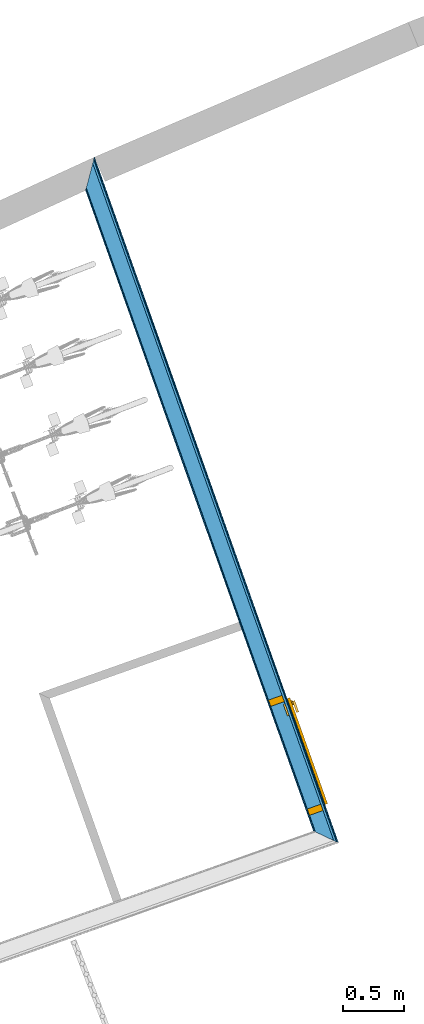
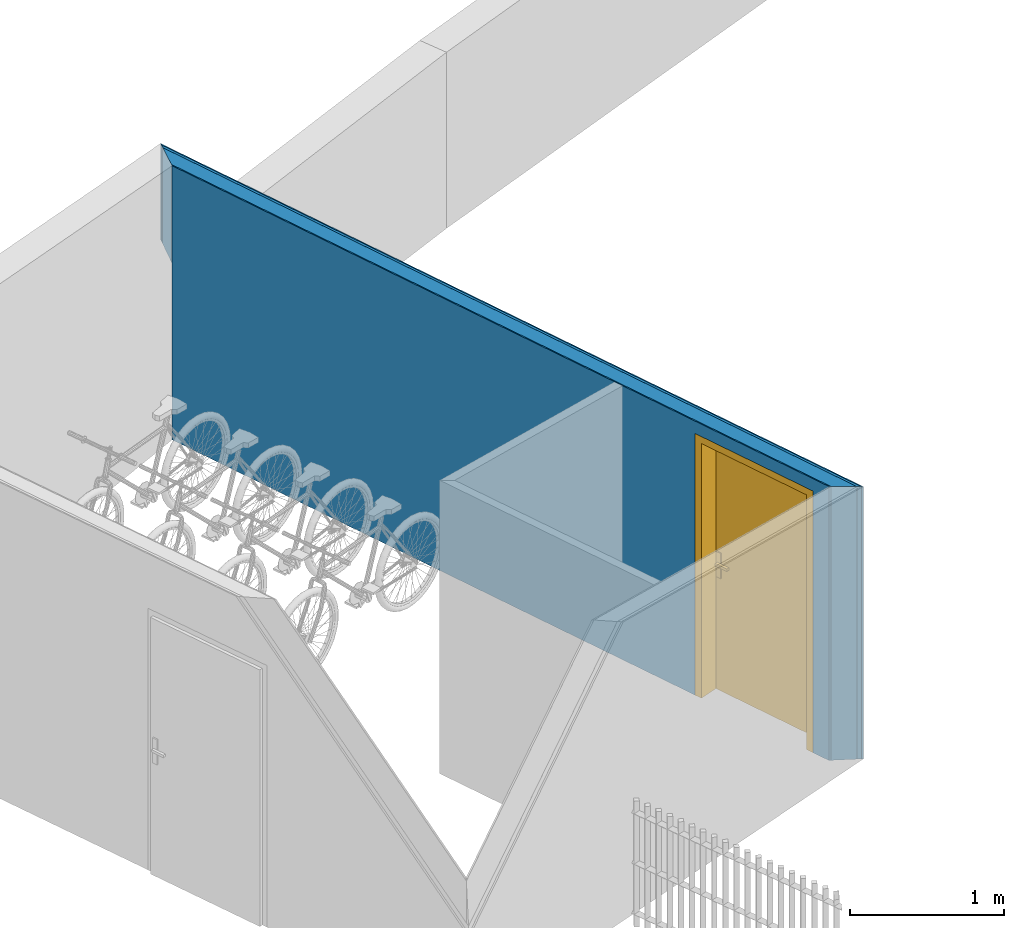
# One storey, part 119 of 195: 4 building element parts, 1 door, 1 opening, 1 element without a shape of its own.
"""IFC2X3 building model written with IfcOpenShell, lengths in metres."""

from ifc_helpers import new_model, entity, si_unit, converted_unit, derived_unit, money_unit, direction, frame, origin_with_axes, origin_2d_with_axis, place, context, subcontext, project, spatial, polyline, rectangle, outline, extrude, boolean, faceted_brep, source, transform, mapped, material, type_object, element, fill, aggregate, save


model = new_model("IFC2X3")

# Units and contexts
model_context = context("Model", 3, precision=1e-05, world=origin_with_axes(), true_north=direction((0.0, 1.0)))
body_context = subcontext(model_context, "Body", "Model", "MODEL_VIEW")
ifc_project = project(units=[si_unit("LENGTHUNIT", "METRE"), si_unit("AREAUNIT", "SQUARE_METRE"), si_unit("VOLUMEUNIT", "CUBIC_METRE"), converted_unit("PLANEANGLEUNIT", "DEGREE", entity("IfcPlaneAngleMeasure", 0.0174532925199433), si_unit("PLANEANGLEUNIT", "RADIAN"), dimensions=[0, 0, 0, 0, 0, 0, 0]), money_unit("CHF"), converted_unit("TIMEUNIT", "Year", entity("IfcTimeMeasure", 31557600.0), si_unit("TIMEUNIT", "SECOND"), dimensions=[0, 0, 1, 0, 0, 0, 0]), si_unit("MASSUNIT", "GRAM", prefix="KILO"), si_unit("THERMODYNAMICTEMPERATUREUNIT", "DEGREE_CELSIUS"), si_unit("LUMINOUSINTENSITYUNIT", "LUMEN"), si_unit("ENERGYUNIT", "JOULE", prefix="MEGA"), derived_unit("THERMALCONDUCTANCEUNIT", [(si_unit("POWERUNIT", "WATT"), 1), (si_unit("LENGTHUNIT", "METRE"), -1), (si_unit("THERMODYNAMICTEMPERATUREUNIT", "KELVIN"), -1)]), derived_unit("SPECIFICHEATCAPACITYUNIT", [(si_unit("ENERGYUNIT", "JOULE"), 1), (si_unit("MASSUNIT", "GRAM", prefix="KILO"), -1), (si_unit("THERMODYNAMICTEMPERATUREUNIT", "KELVIN"), -1)]), derived_unit("MASSDENSITYUNIT", [(si_unit("MASSUNIT", "GRAM", prefix="KILO"), 1), (si_unit("VOLUMEUNIT", "CUBIC_METRE"), -1)])], contexts=[model_context])

# Site, building, storey
site_placement = place(None, origin_with_axes())
site = spatial("IfcSite", under=ifc_project, at=site_placement, Name="Site", CompositionType="ELEMENT")
building_placement = place(site_placement, origin_with_axes())
building = spatial("IfcBuilding", under=site, at=building_placement, Name="Bâtiment", CompositionType="ELEMENT")
storey_placement = place(building_placement, origin_with_axes())
storey = spatial("IfcBuildingStorey", under=building, at=storey_placement, Name="rdc", CompositionType="ELEMENT", Elevation=0.0)

# Door
door_style = type_object("IfcDoorStyle", Name="Porte_1v", ConstructionType="NOTDEFINED", OperationType="NOTDEFINED", ParameterTakesPrecedence=False, Sizeable=False)
shared_shape = source(origin_with_axes(), body_context, "Body", "Brep", [
    faceted_brep([(0.505, 0.0, 0.0), (0.465, 0.0, 0.0), (0.465, 0.0, 2.04), (-0.465, 0.0, 2.04), (-0.465, 0.0, 0.0), (-0.505, 0.0, 0.0), (-0.505, 0.0, 2.08), (0.505, 0.0, 2.08), (0.505, -0.16, 0.0), (0.45, -0.16, 0.0), (0.45, -0.015, 0.0), (0.465, -0.015, 0.0), (0.465, -0.015, 2.04), (-0.465, -0.015, 2.04), (-0.465, -0.015, 0.0), (-0.45, -0.015, 0.0), (-0.45, -0.16, 0.0), (-0.505, -0.16, 0.0), (-0.505, -0.16, 2.08), (0.505, -0.16, 2.08), (-0.45, -0.16, 2.025), (0.45, -0.16, 2.025), (0.45, -0.015, 2.025), (-0.45, -0.015, 2.025)], [[[0, 1, 2, 3, 4, 5, 6, 7]], [[0, 8, 9, 10, 11, 1]], [[1, 11, 12, 2]], [[2, 12, 13, 3]], [[3, 13, 14, 4]], [[5, 4, 14, 15, 16, 17]], [[18, 6, 5, 17]], [[19, 7, 6, 18]], [[8, 0, 7, 19]], [[9, 8, 19, 18, 17, 16, 20, 21]], [[10, 9, 21, 22]], [[11, 10, 22, 23, 15, 14, 13, 12]], [[23, 20, 16, 15]], [[22, 21, 20, 23]]]),
    faceted_brep([(-0.4, -0.015, 0.9), (-0.44, -0.015, 0.9), (-0.44, -0.015, 1.1), (-0.4, -0.015, 1.1), (-0.4, -0.025, 0.9), (-0.44, -0.025, 0.9), (-0.44, -0.025, 1.1), (-0.4, -0.025, 1.1)], [[[0, 1, 2, 3]], [[1, 0, 4, 5]], [[2, 1, 5, 6]], [[3, 2, 6, 7]], [[0, 3, 7, 4]], [[5, 4, 7, 6]]]),
    faceted_brep([(-0.33, -0.025, 1.0), (-0.43, -0.025, 1.0), (-0.43, -0.025, 1.02), (-0.33, -0.025, 1.02), (-0.33, -0.045, 1.0), (-0.43, -0.045, 1.0), (-0.43, -0.045, 1.02), (-0.33, -0.045, 1.02)], [[[0, 1, 2, 3]], [[1, 0, 4, 5]], [[2, 1, 5, 6]], [[3, 2, 6, 7]], [[0, 3, 7, 4]], [[5, 4, 7, 6]]]),
    faceted_brep([(-0.4, 0.035, 0.9), (-0.44, 0.035, 0.9), (-0.44, 0.035, 1.1), (-0.4, 0.035, 1.1), (-0.4, 0.025, 0.9), (-0.44, 0.025, 0.9), (-0.44, 0.025, 1.1), (-0.4, 0.025, 1.1)], [[[0, 1, 2, 3]], [[1, 0, 4, 5]], [[2, 1, 5, 6]], [[3, 2, 6, 7]], [[0, 3, 7, 4]], [[5, 4, 7, 6]]]),
    faceted_brep([(-0.33, 0.05500000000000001, 1.0), (-0.43, 0.05500000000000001, 1.0), (-0.43, 0.05500000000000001, 1.02), (-0.33, 0.05500000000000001, 1.02), (-0.33, 0.035, 1.0), (-0.43, 0.035, 1.0), (-0.43, 0.035, 1.02), (-0.33, 0.035, 1.02)], [[[0, 1, 2, 3]], [[1, 0, 4, 5]], [[2, 1, 5, 6]], [[3, 2, 6, 7]], [[0, 3, 7, 4]], [[5, 4, 7, 6]]]),
    faceted_brep([(-0.465, 0.025, 0.0), (0.465, 0.025, 0.0), (0.465, -0.015, 0.0), (-0.465, -0.015, 0.0), (-0.465, 0.025, 2.04), (0.465, 0.025, 2.04), (0.465, -0.015, 2.04), (-0.465, -0.015, 2.04)], [[[0, 1, 2, 3]], [[0, 4, 5, 1]], [[1, 5, 6, 2]], [[3, 2, 6, 7]], [[4, 0, 3, 7]], [[5, 4, 7, 6]]]),
])
wall_placement = place(storey_placement, frame((9568.764979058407, -1020.386852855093, 57.7), z_axis=(0.0, 0.0, 1.0), x_axis=(0.3352868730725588, -0.9421160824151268, 0.0)))
opening_placement = place(wall_placement, frame((5.211888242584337, 0.0, 0.0), z_axis=(0.0, 0.0, 1.0), x_axis=(1.0, 0.0, 0.0)))
door_placement = place(opening_placement, frame((-0.4650000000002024, 0.0, 0.0), z_axis=(0.0, 0.0, 1.0), x_axis=(1.0, 0.0, 0.0)))
door = element("IfcDoor", 1, at=door_placement, inside=storey, type_object=door_style, Name="Por-301", OverallHeight=2.04, OverallWidth=0.93, context=body_context, shape_type="MappedRepresentation", body=[
    mapped(shared_shape, transform((0.464999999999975, 0.0, 0.0))),
])

# Wall, opening
wall_type = type_object("IfcWallType", Name="1/Ossatur bois 160   non isol 160", PredefinedType="NOTDEFINED")
wall = element("IfcWall", 2, at=wall_placement, inside=storey, type_object=wall_type, Name="Mur-108")
opening = element("IfcOpeningElement", 3, at=opening_placement, cuts=wall, Name="Por-301", context=body_context, shape_type="SweptSolid", body=[
    extrude(rectangle(XDim=1.01000001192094, YDim=2.079999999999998, at=origin_2d_with_axis()), frame((5.960430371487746e-09, -0.1599999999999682, 1.039999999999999), z_axis=(0.0, 1.0, 0.0), x_axis=(1.0, 0.0, 0.0)), (0.0, 0.0, 1.0), 0.32),
])

fill(opening, door)

# Building element part
ifc_material_1 = material(Name="Sans Trame 296962763")
building_element_part_1_placement = place(wall_placement, origin_with_axes())
building_element_part_1 = element("IfcBuildingElementPart", 4, at=building_element_part_1_placement, material=ifc_material_1, Name="Sans Trame 296962763", context=body_context, shape_type="CSG", body=[
    boolean("DIFFERENCE", boolean("DIFFERENCE", boolean("DIFFERENCE", boolean("DIFFERENCE", extrude(outline(polyline([(0.0, -0.1599999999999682), (6.011017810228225, -0.1600000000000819), (6.011017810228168, -0.1500000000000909), (0.0, -0.1500000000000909), (0.0, -0.1599999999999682)])), origin_with_axes(), (0.0, 0.0, 1.0), 2.75), faceted_brep([(0.2341657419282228, -0.1499999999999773, 1.399999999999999), (0.2341657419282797, -0.1500000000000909, 0.0), (0.0, -0.1500000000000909, 0.0), (0.0, -0.1500000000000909, 2.75), (6.011017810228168, -0.1500000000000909, 2.75), (6.011017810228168, -0.1500000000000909, 0.0), (5.861017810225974, -0.1499999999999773, 0.0), (5.861017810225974, -0.1499999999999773, 2.177348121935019), (0.2203617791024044, -0.1499999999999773, 2.177348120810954), (0.2203617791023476, -0.1499999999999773, 1.399999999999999), (0.2350525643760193, -0.1599999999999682, 1.399999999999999), (0.2350525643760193, -0.1600000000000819, 0.0), (0.0, -0.1599999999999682, 0.0), (0.0, -0.1599999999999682, 2.75), (6.011017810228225, -0.1599999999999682, 2.75), (6.011017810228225, -0.1599999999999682, 0.0), (5.851017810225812, -0.1600000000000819, 0.0), (5.851017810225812, -0.1600000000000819, 2.178223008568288), (0.2350525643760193, -0.1599999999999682, 2.178223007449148)], [[[0, 1, 2, 3, 4, 5, 6, 7, 8, 9]], [[1, 0, 10, 11]], [[1, 11, 12, 2]], [[3, 2, 12, 13]], [[3, 13, 14, 4]], [[14, 15, 5, 4]], [[16, 6, 5, 15]], [[7, 6, 16, 17]], [[8, 7, 17, 18]], [[9, 8, 18, 10]], [[0, 9, 10]], [[17, 16, 15, 14, 13, 12, 11, 10, 18]]])), faceted_brep([(0.2235238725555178, -0.02999999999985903, 1.399999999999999), (0.2235238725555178, -0.02999999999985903, 0.0), (0.0, -0.02999999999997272, 0.0), (0.0, -0.02999999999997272, 2.75), (6.011017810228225, -0.02999999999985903, 2.75), (6.011017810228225, -0.02999999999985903, 0.0), (5.981017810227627, -0.02999999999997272, 0.0), (5.981017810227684, -0.02999999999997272, 2.16684948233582), (0.04407235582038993, -0.02999999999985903, 2.166849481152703), (0.0440723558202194, -0.02999999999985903, 1.399999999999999), (0.2341657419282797, -0.1500000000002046, 1.399999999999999), (0.2341657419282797, -0.1500000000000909, 0.0), (0.0, -0.1500000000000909, 0.0), (0.0, -0.1500000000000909, 2.75), (6.011017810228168, -0.1500000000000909, 2.75), (6.011017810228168, -0.1500000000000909, 0.0), (5.861017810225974, -0.1499999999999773, 0.0), (5.861017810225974, -0.1500000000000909, 2.177348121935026), (0.2203617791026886, -0.1500000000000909, 2.177348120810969), (0.2203617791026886, -0.1500000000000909, 1.399999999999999)], [[[0, 1, 2, 3, 4, 5, 6, 7, 8, 9]], [[1, 0, 10, 11]], [[1, 11, 12, 2]], [[3, 2, 12, 13]], [[3, 13, 14, 4]], [[14, 15, 5, 4]], [[16, 6, 5, 15]], [[7, 6, 16, 17]], [[8, 7, 17, 18]], [[9, 8, 18, 19]], [[0, 9, 19, 10]], [[17, 16, 15, 14, 13, 12, 11, 10, 19, 18]]])), faceted_brep([(0.2217502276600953, -0.009999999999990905, 1.399999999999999), (0.2217502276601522, -0.009999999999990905, 0.0), (0.0, -0.009999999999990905, 0.0), (0.0, -0.009999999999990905, 2.75), (6.011017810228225, -0.009999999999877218, 2.75), (6.011017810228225, -0.009999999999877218, 0.0), (6.001017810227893, -0.009999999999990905, 0.0), (6.001017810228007, -0.009999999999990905, 2.165099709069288), (0.01469078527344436, -0.009999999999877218, 2.16509970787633), (0.01469078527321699, -0.009999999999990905, 1.399999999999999), (0.2235238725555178, -0.02999999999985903, 1.399999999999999), (0.2235238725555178, -0.02999999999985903, 0.0), (0.0, -0.02999999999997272, 0.0), (0.0, -0.02999999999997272, 2.75), (6.011017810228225, -0.02999999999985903, 2.75), (6.011017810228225, -0.02999999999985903, 0.0), (5.981017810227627, -0.02999999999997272, 0.0), (5.981017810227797, -0.02999999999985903, 2.166849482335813), (0.04407235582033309, -0.02999999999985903, 2.166849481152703), (0.04407235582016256, -0.02999999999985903, 1.399999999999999)], [[[0, 1, 2, 3, 4, 5, 6, 7, 8, 9]], [[1, 0, 10, 11]], [[1, 11, 12, 2]], [[3, 2, 12, 13]], [[3, 13, 14, 4]], [[14, 15, 5, 4]], [[16, 6, 5, 15]], [[7, 6, 16, 17]], [[8, 7, 17, 18]], [[9, 8, 18, 19]], [[0, 9, 19, 10]], [[17, 16, 15, 14, 13, 12, 11, 10, 19, 18]]])), faceted_brep([(6.011017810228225, 0.0, 0.0), (6.011017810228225, 0.0, 2.164224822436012), (6.011017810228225, 0.0, 2.75), (6.011017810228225, -0.009999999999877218, 2.75), (6.011017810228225, -0.009999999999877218, 0.0), (6.001017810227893, -0.009999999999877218, 0.0), (6.00101781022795, -0.009999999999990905, 2.165099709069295), (0.0, 0.0, 2.164224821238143), (0.0, 0.0, 2.75), (0.0, -0.009999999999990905, 2.75), (0.0, -0.009999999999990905, 0.0), (0.2217502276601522, -0.009999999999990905, 0.0), (0.2217502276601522, -0.009999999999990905, 1.399999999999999), (0.01469078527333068, -0.009999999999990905, 1.399999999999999), (0.01469078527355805, -0.009999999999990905, 2.165099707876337), (0.0, 0.0, 1.399999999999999), (0.0, 0.0, 0.0), (0.2208634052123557, 0.0, 0.0), (0.2208634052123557, 0.0, 1.399999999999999)], [[[0, 1, 2, 3, 4]], [[1, 0, 5, 6]], [[1, 7, 8, 2]], [[8, 9, 3, 2]], [[6, 5, 4, 3, 9, 10, 11, 12, 13, 14]], [[5, 0, 4]], [[7, 1, 6, 14]], [[7, 15, 16, 10, 9, 8]], [[17, 11, 10, 16]], [[17, 18, 12, 11]], [[18, 15, 13, 12]], [[15, 7, 14, 13]], [[18, 17, 16, 15]]])),
])

ifc_material_2 = material(Name="Lame d'air 323202302")
building_element_part_2_placement = place(wall_placement, origin_with_axes())
building_element_part_2 = element("IfcBuildingElementPart", 5, at=building_element_part_2_placement, material=ifc_material_2, Name="Lame d'air 323202302", context=body_context, shape_type="CSG", body=[
    boolean("DIFFERENCE", boolean("DIFFERENCE", boolean("DIFFERENCE", boolean("DIFFERENCE", extrude(outline(polyline([(0.0, -0.02999999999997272), (6.011017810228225, -0.02999999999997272), (6.011017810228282, -0.009999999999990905), (0.0, -0.009999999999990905), (0.0, -0.02999999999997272)])), origin_with_axes(), (0.0, 0.0, 1.0), 2.75), faceted_brep([(0.2341657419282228, -0.1499999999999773, 1.399999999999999), (0.2341657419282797, -0.1500000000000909, 0.0), (0.0, -0.1500000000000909, 0.0), (0.0, -0.1500000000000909, 2.75), (6.011017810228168, -0.1500000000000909, 2.75), (6.011017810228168, -0.1500000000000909, 0.0), (5.861017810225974, -0.1499999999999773, 0.0), (5.861017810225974, -0.1499999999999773, 2.177348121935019), (0.2203617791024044, -0.1499999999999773, 2.177348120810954), (0.2203617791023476, -0.1499999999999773, 1.399999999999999), (0.2350525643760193, -0.1599999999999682, 1.399999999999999), (0.2350525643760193, -0.1600000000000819, 0.0), (0.0, -0.1599999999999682, 0.0), (0.0, -0.1599999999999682, 2.75), (6.011017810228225, -0.1599999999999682, 2.75), (6.011017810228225, -0.1599999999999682, 0.0), (5.851017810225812, -0.1600000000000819, 0.0), (5.851017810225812, -0.1600000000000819, 2.178223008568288), (0.2350525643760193, -0.1599999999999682, 2.178223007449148)], [[[0, 1, 2, 3, 4, 5, 6, 7, 8, 9]], [[1, 0, 10, 11]], [[1, 11, 12, 2]], [[3, 2, 12, 13]], [[3, 13, 14, 4]], [[14, 15, 5, 4]], [[16, 6, 5, 15]], [[7, 6, 16, 17]], [[8, 7, 17, 18]], [[9, 8, 18, 10]], [[0, 9, 10]], [[17, 16, 15, 14, 13, 12, 11, 10, 18]]])), faceted_brep([(0.2235238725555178, -0.02999999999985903, 1.399999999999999), (0.2235238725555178, -0.02999999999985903, 0.0), (0.0, -0.02999999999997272, 0.0), (0.0, -0.02999999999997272, 2.75), (6.011017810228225, -0.02999999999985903, 2.75), (6.011017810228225, -0.02999999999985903, 0.0), (5.981017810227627, -0.02999999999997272, 0.0), (5.981017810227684, -0.02999999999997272, 2.16684948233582), (0.04407235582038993, -0.02999999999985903, 2.166849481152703), (0.0440723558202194, -0.02999999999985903, 1.399999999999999), (0.2341657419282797, -0.1500000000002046, 1.399999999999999), (0.2341657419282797, -0.1500000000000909, 0.0), (0.0, -0.1500000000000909, 0.0), (0.0, -0.1500000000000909, 2.75), (6.011017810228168, -0.1500000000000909, 2.75), (6.011017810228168, -0.1500000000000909, 0.0), (5.861017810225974, -0.1499999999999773, 0.0), (5.861017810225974, -0.1500000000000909, 2.177348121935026), (0.2203617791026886, -0.1500000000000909, 2.177348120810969), (0.2203617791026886, -0.1500000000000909, 1.399999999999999)], [[[0, 1, 2, 3, 4, 5, 6, 7, 8, 9]], [[1, 0, 10, 11]], [[1, 11, 12, 2]], [[3, 2, 12, 13]], [[3, 13, 14, 4]], [[14, 15, 5, 4]], [[16, 6, 5, 15]], [[7, 6, 16, 17]], [[8, 7, 17, 18]], [[9, 8, 18, 19]], [[0, 9, 19, 10]], [[17, 16, 15, 14, 13, 12, 11, 10, 19, 18]]])), faceted_brep([(0.2217502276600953, -0.009999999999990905, 1.399999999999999), (0.2217502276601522, -0.009999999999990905, 0.0), (0.0, -0.009999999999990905, 0.0), (0.0, -0.009999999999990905, 2.75), (6.011017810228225, -0.009999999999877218, 2.75), (6.011017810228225, -0.009999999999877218, 0.0), (6.001017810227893, -0.009999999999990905, 0.0), (6.001017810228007, -0.009999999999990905, 2.165099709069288), (0.01469078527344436, -0.009999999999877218, 2.16509970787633), (0.01469078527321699, -0.009999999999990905, 1.399999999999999), (0.2235238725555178, -0.02999999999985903, 1.399999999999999), (0.2235238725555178, -0.02999999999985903, 0.0), (0.0, -0.02999999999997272, 0.0), (0.0, -0.02999999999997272, 2.75), (6.011017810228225, -0.02999999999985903, 2.75), (6.011017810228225, -0.02999999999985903, 0.0), (5.981017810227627, -0.02999999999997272, 0.0), (5.981017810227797, -0.02999999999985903, 2.166849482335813), (0.04407235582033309, -0.02999999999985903, 2.166849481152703), (0.04407235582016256, -0.02999999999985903, 1.399999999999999)], [[[0, 1, 2, 3, 4, 5, 6, 7, 8, 9]], [[1, 0, 10, 11]], [[1, 11, 12, 2]], [[3, 2, 12, 13]], [[3, 13, 14, 4]], [[14, 15, 5, 4]], [[16, 6, 5, 15]], [[7, 6, 16, 17]], [[8, 7, 17, 18]], [[9, 8, 18, 19]], [[0, 9, 19, 10]], [[17, 16, 15, 14, 13, 12, 11, 10, 19, 18]]])), faceted_brep([(6.011017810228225, 0.0, 0.0), (6.011017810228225, 0.0, 2.164224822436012), (6.011017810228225, 0.0, 2.75), (6.011017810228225, -0.009999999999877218, 2.75), (6.011017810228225, -0.009999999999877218, 0.0), (6.001017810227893, -0.009999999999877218, 0.0), (6.00101781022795, -0.009999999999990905, 2.165099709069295), (0.0, 0.0, 2.164224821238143), (0.0, 0.0, 2.75), (0.0, -0.009999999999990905, 2.75), (0.0, -0.009999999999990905, 0.0), (0.2217502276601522, -0.009999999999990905, 0.0), (0.2217502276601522, -0.009999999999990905, 1.399999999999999), (0.01469078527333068, -0.009999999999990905, 1.399999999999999), (0.01469078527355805, -0.009999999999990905, 2.165099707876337), (0.0, 0.0, 1.399999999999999), (0.0, 0.0, 0.0), (0.2208634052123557, 0.0, 0.0), (0.2208634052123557, 0.0, 1.399999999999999)], [[[0, 1, 2, 3, 4]], [[1, 0, 5, 6]], [[1, 7, 8, 2]], [[8, 9, 3, 2]], [[6, 5, 4, 3, 9, 10, 11, 12, 13, 14]], [[5, 0, 4]], [[7, 1, 6, 14]], [[7, 15, 16, 10, 9, 8]], [[17, 11, 10, 16]], [[17, 18, 12, 11]], [[18, 15, 13, 12]], [[15, 7, 14, 13]], [[18, 17, 16, 15]]])),
])

ifc_material_3 = material(Name="Lame d'air 275581439")
building_element_part_3_placement = place(wall_placement, origin_with_axes())
building_element_part_3 = element("IfcBuildingElementPart", 6, at=building_element_part_3_placement, material=ifc_material_3, Name="Lame d'air 275581439", context=body_context, shape_type="CSG", body=[
    boolean("DIFFERENCE", boolean("DIFFERENCE", boolean("DIFFERENCE", boolean("DIFFERENCE", extrude(outline(polyline([(0.0, -0.1500000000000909), (6.011017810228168, -0.1500000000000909), (6.011017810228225, -0.02999999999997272), (0.0, -0.02999999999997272), (0.0, -0.1500000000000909)])), origin_with_axes(), (0.0, 0.0, 1.0), 2.75), faceted_brep([(0.2341657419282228, -0.1499999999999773, 1.399999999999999), (0.2341657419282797, -0.1500000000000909, 0.0), (0.0, -0.1500000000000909, 0.0), (0.0, -0.1500000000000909, 2.75), (6.011017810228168, -0.1500000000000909, 2.75), (6.011017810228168, -0.1500000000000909, 0.0), (5.861017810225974, -0.1499999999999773, 0.0), (5.861017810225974, -0.1499999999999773, 2.177348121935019), (0.2203617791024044, -0.1499999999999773, 2.177348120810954), (0.2203617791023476, -0.1499999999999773, 1.399999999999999), (0.2350525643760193, -0.1599999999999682, 1.399999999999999), (0.2350525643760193, -0.1600000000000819, 0.0), (0.0, -0.1599999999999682, 0.0), (0.0, -0.1599999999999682, 2.75), (6.011017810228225, -0.1599999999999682, 2.75), (6.011017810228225, -0.1599999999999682, 0.0), (5.851017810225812, -0.1600000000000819, 0.0), (5.851017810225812, -0.1600000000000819, 2.178223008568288), (0.2350525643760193, -0.1599999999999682, 2.178223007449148)], [[[0, 1, 2, 3, 4, 5, 6, 7, 8, 9]], [[1, 0, 10, 11]], [[1, 11, 12, 2]], [[3, 2, 12, 13]], [[3, 13, 14, 4]], [[14, 15, 5, 4]], [[16, 6, 5, 15]], [[7, 6, 16, 17]], [[8, 7, 17, 18]], [[9, 8, 18, 10]], [[0, 9, 10]], [[17, 16, 15, 14, 13, 12, 11, 10, 18]]])), faceted_brep([(0.2235238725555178, -0.02999999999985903, 1.399999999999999), (0.2235238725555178, -0.02999999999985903, 0.0), (0.0, -0.02999999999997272, 0.0), (0.0, -0.02999999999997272, 2.75), (6.011017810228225, -0.02999999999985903, 2.75), (6.011017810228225, -0.02999999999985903, 0.0), (5.981017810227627, -0.02999999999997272, 0.0), (5.981017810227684, -0.02999999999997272, 2.16684948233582), (0.04407235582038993, -0.02999999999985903, 2.166849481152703), (0.0440723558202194, -0.02999999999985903, 1.399999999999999), (0.2341657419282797, -0.1500000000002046, 1.399999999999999), (0.2341657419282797, -0.1500000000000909, 0.0), (0.0, -0.1500000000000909, 0.0), (0.0, -0.1500000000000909, 2.75), (6.011017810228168, -0.1500000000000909, 2.75), (6.011017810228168, -0.1500000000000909, 0.0), (5.861017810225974, -0.1499999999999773, 0.0), (5.861017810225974, -0.1500000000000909, 2.177348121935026), (0.2203617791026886, -0.1500000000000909, 2.177348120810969), (0.2203617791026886, -0.1500000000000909, 1.399999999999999)], [[[0, 1, 2, 3, 4, 5, 6, 7, 8, 9]], [[1, 0, 10, 11]], [[1, 11, 12, 2]], [[3, 2, 12, 13]], [[3, 13, 14, 4]], [[14, 15, 5, 4]], [[16, 6, 5, 15]], [[7, 6, 16, 17]], [[8, 7, 17, 18]], [[9, 8, 18, 19]], [[0, 9, 19, 10]], [[17, 16, 15, 14, 13, 12, 11, 10, 19, 18]]])), faceted_brep([(0.2217502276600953, -0.009999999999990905, 1.399999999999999), (0.2217502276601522, -0.009999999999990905, 0.0), (0.0, -0.009999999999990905, 0.0), (0.0, -0.009999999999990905, 2.75), (6.011017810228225, -0.009999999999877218, 2.75), (6.011017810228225, -0.009999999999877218, 0.0), (6.001017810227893, -0.009999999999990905, 0.0), (6.001017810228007, -0.009999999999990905, 2.165099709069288), (0.01469078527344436, -0.009999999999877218, 2.16509970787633), (0.01469078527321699, -0.009999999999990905, 1.399999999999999), (0.2235238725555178, -0.02999999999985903, 1.399999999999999), (0.2235238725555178, -0.02999999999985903, 0.0), (0.0, -0.02999999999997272, 0.0), (0.0, -0.02999999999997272, 2.75), (6.011017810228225, -0.02999999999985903, 2.75), (6.011017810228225, -0.02999999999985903, 0.0), (5.981017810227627, -0.02999999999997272, 0.0), (5.981017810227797, -0.02999999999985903, 2.166849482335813), (0.04407235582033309, -0.02999999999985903, 2.166849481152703), (0.04407235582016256, -0.02999999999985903, 1.399999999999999)], [[[0, 1, 2, 3, 4, 5, 6, 7, 8, 9]], [[1, 0, 10, 11]], [[1, 11, 12, 2]], [[3, 2, 12, 13]], [[3, 13, 14, 4]], [[14, 15, 5, 4]], [[16, 6, 5, 15]], [[7, 6, 16, 17]], [[8, 7, 17, 18]], [[9, 8, 18, 19]], [[0, 9, 19, 10]], [[17, 16, 15, 14, 13, 12, 11, 10, 19, 18]]])), faceted_brep([(6.011017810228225, 0.0, 0.0), (6.011017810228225, 0.0, 2.164224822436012), (6.011017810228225, 0.0, 2.75), (6.011017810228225, -0.009999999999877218, 2.75), (6.011017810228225, -0.009999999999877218, 0.0), (6.001017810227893, -0.009999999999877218, 0.0), (6.00101781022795, -0.009999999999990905, 2.165099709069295), (0.0, 0.0, 2.164224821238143), (0.0, 0.0, 2.75), (0.0, -0.009999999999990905, 2.75), (0.0, -0.009999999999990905, 0.0), (0.2217502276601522, -0.009999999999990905, 0.0), (0.2217502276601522, -0.009999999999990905, 1.399999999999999), (0.01469078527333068, -0.009999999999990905, 1.399999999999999), (0.01469078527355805, -0.009999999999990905, 2.165099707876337), (0.0, 0.0, 1.399999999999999), (0.0, 0.0, 0.0), (0.2208634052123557, 0.0, 0.0), (0.2208634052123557, 0.0, 1.399999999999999)], [[[0, 1, 2, 3, 4]], [[1, 0, 5, 6]], [[1, 7, 8, 2]], [[8, 9, 3, 2]], [[6, 5, 4, 3, 9, 10, 11, 12, 13, 14]], [[5, 0, 4]], [[7, 1, 6, 14]], [[7, 15, 16, 10, 9, 8]], [[17, 11, 10, 16]], [[17, 18, 12, 11]], [[18, 15, 13, 12]], [[15, 7, 14, 13]], [[18, 17, 16, 15]]])),
])

ifc_material_4 = material(Name="Hachure solide 323202122")
building_element_part_4_placement = place(wall_placement, origin_with_axes())
building_element_part_4 = element("IfcBuildingElementPart", 7, at=building_element_part_4_placement, material=ifc_material_4, Name="Hachure solide 323202122", context=body_context, shape_type="CSG", body=[
    boolean("DIFFERENCE", boolean("DIFFERENCE", boolean("DIFFERENCE", boolean("DIFFERENCE", extrude(outline(polyline([(0.0, -0.009999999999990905), (6.011017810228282, -0.009999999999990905), (6.011017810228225, 0.0), (0.0, 0.0), (0.0, -0.009999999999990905)])), origin_with_axes(), (0.0, 0.0, 1.0), 2.75), faceted_brep([(0.2341657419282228, -0.1499999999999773, 1.399999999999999), (0.2341657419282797, -0.1500000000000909, 0.0), (0.0, -0.1500000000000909, 0.0), (0.0, -0.1500000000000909, 2.75), (6.011017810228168, -0.1500000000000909, 2.75), (6.011017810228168, -0.1500000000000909, 0.0), (5.861017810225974, -0.1499999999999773, 0.0), (5.861017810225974, -0.1499999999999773, 2.177348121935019), (0.2203617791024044, -0.1499999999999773, 2.177348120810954), (0.2203617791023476, -0.1499999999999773, 1.399999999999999), (0.2350525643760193, -0.1599999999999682, 1.399999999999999), (0.2350525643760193, -0.1600000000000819, 0.0), (0.0, -0.1599999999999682, 0.0), (0.0, -0.1599999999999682, 2.75), (6.011017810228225, -0.1599999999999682, 2.75), (6.011017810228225, -0.1599999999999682, 0.0), (5.851017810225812, -0.1600000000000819, 0.0), (5.851017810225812, -0.1600000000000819, 2.178223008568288), (0.2350525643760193, -0.1599999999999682, 2.178223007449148)], [[[0, 1, 2, 3, 4, 5, 6, 7, 8, 9]], [[1, 0, 10, 11]], [[1, 11, 12, 2]], [[3, 2, 12, 13]], [[3, 13, 14, 4]], [[14, 15, 5, 4]], [[16, 6, 5, 15]], [[7, 6, 16, 17]], [[8, 7, 17, 18]], [[9, 8, 18, 10]], [[0, 9, 10]], [[17, 16, 15, 14, 13, 12, 11, 10, 18]]])), faceted_brep([(0.2235238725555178, -0.02999999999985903, 1.399999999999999), (0.2235238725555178, -0.02999999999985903, 0.0), (0.0, -0.02999999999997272, 0.0), (0.0, -0.02999999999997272, 2.75), (6.011017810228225, -0.02999999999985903, 2.75), (6.011017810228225, -0.02999999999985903, 0.0), (5.981017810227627, -0.02999999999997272, 0.0), (5.981017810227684, -0.02999999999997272, 2.16684948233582), (0.04407235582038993, -0.02999999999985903, 2.166849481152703), (0.0440723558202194, -0.02999999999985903, 1.399999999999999), (0.2341657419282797, -0.1500000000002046, 1.399999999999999), (0.2341657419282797, -0.1500000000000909, 0.0), (0.0, -0.1500000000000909, 0.0), (0.0, -0.1500000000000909, 2.75), (6.011017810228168, -0.1500000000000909, 2.75), (6.011017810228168, -0.1500000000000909, 0.0), (5.861017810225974, -0.1499999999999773, 0.0), (5.861017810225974, -0.1500000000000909, 2.177348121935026), (0.2203617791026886, -0.1500000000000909, 2.177348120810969), (0.2203617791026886, -0.1500000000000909, 1.399999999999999)], [[[0, 1, 2, 3, 4, 5, 6, 7, 8, 9]], [[1, 0, 10, 11]], [[1, 11, 12, 2]], [[3, 2, 12, 13]], [[3, 13, 14, 4]], [[14, 15, 5, 4]], [[16, 6, 5, 15]], [[7, 6, 16, 17]], [[8, 7, 17, 18]], [[9, 8, 18, 19]], [[0, 9, 19, 10]], [[17, 16, 15, 14, 13, 12, 11, 10, 19, 18]]])), faceted_brep([(0.2217502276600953, -0.009999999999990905, 1.399999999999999), (0.2217502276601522, -0.009999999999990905, 0.0), (0.0, -0.009999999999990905, 0.0), (0.0, -0.009999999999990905, 2.75), (6.011017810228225, -0.009999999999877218, 2.75), (6.011017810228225, -0.009999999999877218, 0.0), (6.001017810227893, -0.009999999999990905, 0.0), (6.001017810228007, -0.009999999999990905, 2.165099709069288), (0.01469078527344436, -0.009999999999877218, 2.16509970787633), (0.01469078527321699, -0.009999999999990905, 1.399999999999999), (0.2235238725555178, -0.02999999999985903, 1.399999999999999), (0.2235238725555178, -0.02999999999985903, 0.0), (0.0, -0.02999999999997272, 0.0), (0.0, -0.02999999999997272, 2.75), (6.011017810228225, -0.02999999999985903, 2.75), (6.011017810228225, -0.02999999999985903, 0.0), (5.981017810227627, -0.02999999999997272, 0.0), (5.981017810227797, -0.02999999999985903, 2.166849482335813), (0.04407235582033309, -0.02999999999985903, 2.166849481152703), (0.04407235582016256, -0.02999999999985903, 1.399999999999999)], [[[0, 1, 2, 3, 4, 5, 6, 7, 8, 9]], [[1, 0, 10, 11]], [[1, 11, 12, 2]], [[3, 2, 12, 13]], [[3, 13, 14, 4]], [[14, 15, 5, 4]], [[16, 6, 5, 15]], [[7, 6, 16, 17]], [[8, 7, 17, 18]], [[9, 8, 18, 19]], [[0, 9, 19, 10]], [[17, 16, 15, 14, 13, 12, 11, 10, 19, 18]]])), faceted_brep([(6.011017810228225, 0.0, 0.0), (6.011017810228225, 0.0, 2.164224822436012), (6.011017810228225, 0.0, 2.75), (6.011017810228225, -0.009999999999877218, 2.75), (6.011017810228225, -0.009999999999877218, 0.0), (6.001017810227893, -0.009999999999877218, 0.0), (6.00101781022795, -0.009999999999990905, 2.165099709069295), (0.0, 0.0, 2.164224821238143), (0.0, 0.0, 2.75), (0.0, -0.009999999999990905, 2.75), (0.0, -0.009999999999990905, 0.0), (0.2217502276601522, -0.009999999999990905, 0.0), (0.2217502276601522, -0.009999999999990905, 1.399999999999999), (0.01469078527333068, -0.009999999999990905, 1.399999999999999), (0.01469078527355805, -0.009999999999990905, 2.165099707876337), (0.0, 0.0, 1.399999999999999), (0.0, 0.0, 0.0), (0.2208634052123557, 0.0, 0.0), (0.2208634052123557, 0.0, 1.399999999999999)], [[[0, 1, 2, 3, 4]], [[1, 0, 5, 6]], [[1, 7, 8, 2]], [[8, 9, 3, 2]], [[6, 5, 4, 3, 9, 10, 11, 12, 13, 14]], [[5, 0, 4]], [[7, 1, 6, 14]], [[7, 15, 16, 10, 9, 8]], [[17, 11, 10, 16]], [[17, 18, 12, 11]], [[18, 15, 13, 12]], [[15, 7, 14, 13]], [[18, 17, 16, 15]]])),
])

aggregate(wall, [building_element_part_1, building_element_part_2, building_element_part_3, building_element_part_4])

save(model, "model.ifc")
